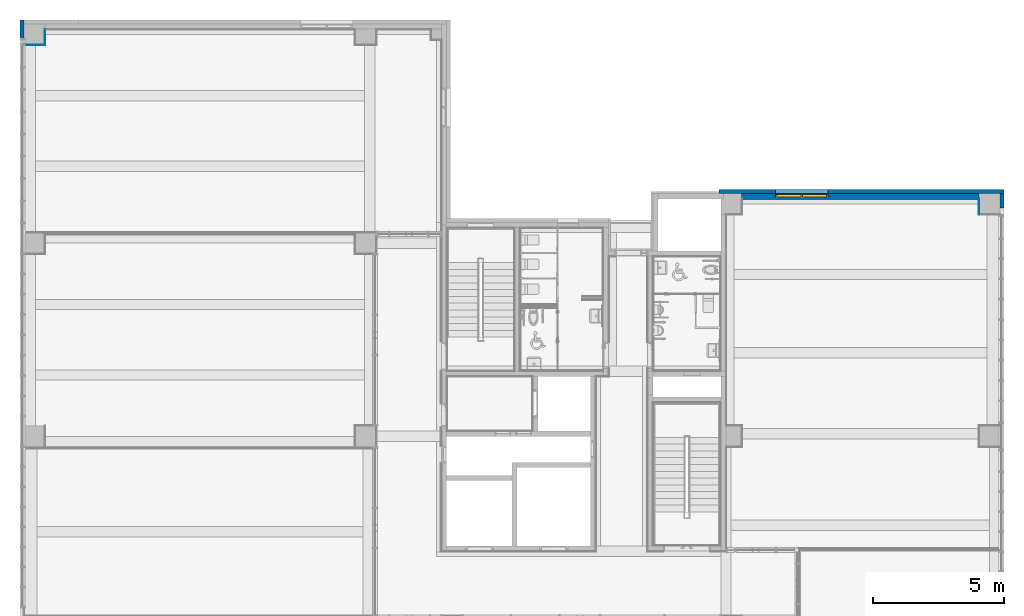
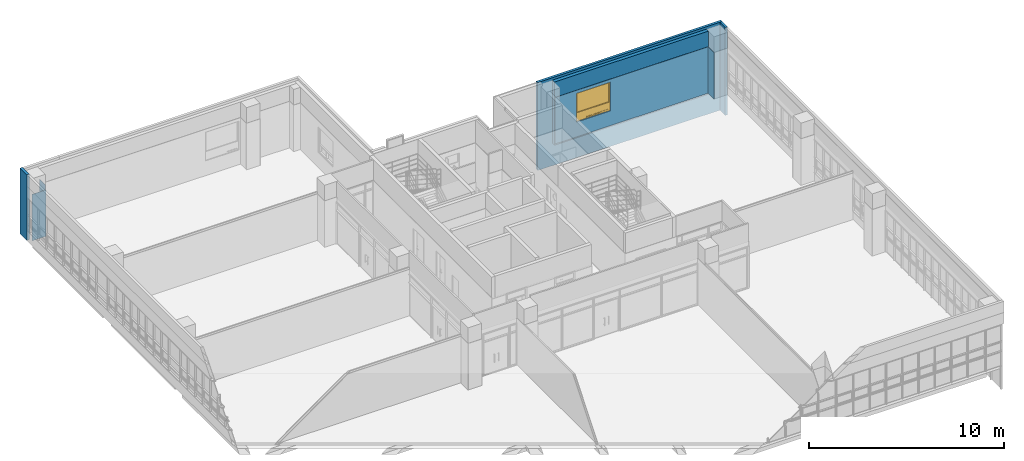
# One storey, part 65 of 81: 8 walls, 1 window, 3 openings.
"""IFC2X3 building model written with IfcOpenShell, lengths in millimetres."""

from ifc_helpers import new_model, entity, si_unit, converted_unit, derived_unit, direction, frame, frame_2d, origin, origin_2d_with_axis, place, context, subcontext, project, spatial, polyline, rectangle, extrude, clip, bounded_halfspace, faceted_brep, source, transform, mapped, material, material_list, layer, layer_set, layer_usage, type_object, type_shapes, element, fill, save


model = new_model("IFC2X3")

# Units and contexts
model_context = context("Model", 3, precision=0.01, world=origin(), true_north=direction((6.123031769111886e-17, 1.0)))
body_context = subcontext(model_context, "Body", "Model", "MODEL_VIEW")
ifc_project = project(units=[si_unit("LENGTHUNIT", "METRE", prefix="MILLI"), si_unit("AREAUNIT", "SQUARE_METRE"), si_unit("VOLUMEUNIT", "CUBIC_METRE"), converted_unit("PLANEANGLEUNIT", "DEGREE", entity("IfcRatioMeasure", 0.017453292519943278), si_unit("PLANEANGLEUNIT", "RADIAN"), dimensions=[0, 0, 0, 0, 0, 0, 0]), si_unit("MASSUNIT", "GRAM", prefix="KILO"), derived_unit("MASSDENSITYUNIT", [(si_unit("MASSUNIT", "GRAM", prefix="KILO"), 1), (si_unit("LENGTHUNIT", "METRE"), -3)]), derived_unit("MOMENTOFINERTIAUNIT", [(si_unit("LENGTHUNIT", "METRE"), 4)]), si_unit("TIMEUNIT", "SECOND"), si_unit("FREQUENCYUNIT", "HERTZ"), si_unit("THERMODYNAMICTEMPERATUREUNIT", "DEGREE_CELSIUS"), derived_unit("THERMALTRANSMITTANCEUNIT", [(si_unit("MASSUNIT", "GRAM", prefix="KILO"), 1), (si_unit("THERMODYNAMICTEMPERATUREUNIT", "KELVIN"), -1), (si_unit("TIMEUNIT", "SECOND"), -3)]), derived_unit("VOLUMETRICFLOWRATEUNIT", [(si_unit("LENGTHUNIT", "METRE"), 3), (si_unit("TIMEUNIT", "SECOND"), -1)]), derived_unit("MASSFLOWRATEUNIT", [(si_unit("MASSUNIT", "GRAM", prefix="KILO"), 1), (si_unit("TIMEUNIT", "SECOND"), -1)]), derived_unit("ROTATIONALFREQUENCYUNIT", [(si_unit("TIMEUNIT", "SECOND"), -1)]), si_unit("ELECTRICCURRENTUNIT", "AMPERE"), si_unit("ELECTRICVOLTAGEUNIT", "VOLT"), si_unit("POWERUNIT", "WATT"), si_unit("FORCEUNIT", "NEWTON", prefix="KILO"), si_unit("ILLUMINANCEUNIT", "LUX"), si_unit("LUMINOUSFLUXUNIT", "LUMEN"), si_unit("LUMINOUSINTENSITYUNIT", "CANDELA"), derived_unit("USERDEFINED", [(si_unit("MASSUNIT", "GRAM", prefix="KILO"), -1), (si_unit("LENGTHUNIT", "METRE"), -2), (si_unit("TIMEUNIT", "SECOND"), 3), (si_unit("LUMINOUSFLUXUNIT", "LUMEN"), 1)]), derived_unit("SOUNDPOWERUNIT", [(si_unit("MASSUNIT", "GRAM", prefix="KILO"), 1), (si_unit("LENGTHUNIT", "METRE"), 2), (si_unit("TIMEUNIT", "SECOND"), -3)]), derived_unit("SOUNDPRESSUREUNIT", [(si_unit("MASSUNIT", "GRAM", prefix="KILO"), 1), (si_unit("LENGTHUNIT", "METRE"), -1), (si_unit("TIMEUNIT", "SECOND"), -2)]), derived_unit("LINEARVELOCITYUNIT", [(si_unit("LENGTHUNIT", "METRE"), 1), (si_unit("TIMEUNIT", "SECOND"), -1)]), si_unit("PRESSUREUNIT", "PASCAL"), derived_unit("USERDEFINED", [(si_unit("LENGTHUNIT", "METRE"), -2), (si_unit("MASSUNIT", "GRAM", prefix="KILO"), 1), (si_unit("TIMEUNIT", "SECOND"), -2)]), derived_unit("LINEARFORCEUNIT", [(si_unit("MASSUNIT", "GRAM", prefix="KILO"), 1), (si_unit("LENGTHUNIT", "METRE"), 1), (si_unit("TIMEUNIT", "SECOND"), -2), (si_unit("LENGTHUNIT", "METRE"), -1)]), derived_unit("PLANARFORCEUNIT", [(si_unit("MASSUNIT", "GRAM", prefix="KILO"), 1), (si_unit("LENGTHUNIT", "METRE"), 1), (si_unit("TIMEUNIT", "SECOND"), -2), (si_unit("LENGTHUNIT", "METRE"), -2)])], contexts=[model_context])

# Site, building, storey
site_placement = place(None, frame((-14167.972527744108, -657.2125860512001, 0.0)))
site = spatial("IfcSite", under=ifc_project, at=site_placement, Name="Default", CompositionType="ELEMENT")
building_placement = place(site_placement, origin())
building = spatial("IfcBuilding", under=site, at=building_placement, Name="Sample Building", CompositionType="ELEMENT")
storey_placement = place(building_placement, frame((0.0, 0.0, 13400.0)))
storey = spatial("IfcBuildingStorey", under=building, at=storey_placement, Name="지상 4층", CompositionType="ELEMENT", Elevation=13400.00000000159)

# Wall, opening, window
ifc_material_1 = material(Name="KBIMS-콘크리트")
ifc_layer_1 = layer(ifc_material_1, 200.0)
ifc_layer_set_1 = layer_set([ifc_layer_1], Name="기본 벽:WA111-철근콘크리트구조 벽 200mm_W1")
ifc_layer_usage_1 = layer_usage(ifc_layer_set_1, "AXIS2", "NEGATIVE", 100.0)
wall_type_1 = type_object("IfcWallType", Name="기본 벽:WA111-철근콘크리트구조 벽 200mm_W1", PredefinedType="STANDARD", material=ifc_layer_set_1)
wall_1_placement = place(storey_placement, frame((41566.972491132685, 29157.212295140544, -2.3000097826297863e-09)))
wall_1 = element("IfcWallStandardCase", 1, at=wall_1_placement, inside=storey, type_object=wall_type_1, material=ifc_layer_usage_1, Name="기본 벽:WA111-철근콘크리트구조 벽 200mm_W1", ObjectType="기본 벽:WA111-철근콘크리트구조 벽 200mm_W1", context=body_context, shape_type="Clipping", body=[
    clip(extrude(rectangle(XDim=9101.008723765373, YDim=199.99999999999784, at=frame_2d((4550.504361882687, 0.0), x_axis=(-1.0, 0.0))), origin(), (0.0, 0.0, 1.0), 3950.0000000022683), bounded_halfspace(frame((0.0, -100.0, 3950.0), z_axis=(0.0, 0.0, -1.0), x_axis=(0.0, -1.0, 0.0)), True, frame((0.0, -100.0, 3950.0), z_axis=(0.0, 0.0, -1.0), x_axis=(0.0, -1.0, 0.0)), polyline([(0.0, 0.0), (-60960.0, 0.0), (-60960.0, -2773987.459003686), (1.5757882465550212e-08, -2773987.459003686), (0.0, -299.5119162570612), (0.0, 0.0)]))),
])
opening_1_placement = place(wall_1_placement, frame((3301.0174657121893, 100.0, 1000.0)))
opening_1 = element("IfcOpeningElement", 2, at=opening_1_placement, cuts=wall_1, Name="WD842-2단 하부 더블 프로젝트 창(스테인리스 스틸):WD842-2단 하부 더블 프로젝트 창(스테인리스 스틸)_2000x1800mm:1", ObjectType="Opening", context=body_context, shape_type="SweptSolid", body=[
    extrude(rectangle(XDim=1799.9999999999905, YDim=1999.9999999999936, at=frame_2d((899.9999999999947, 999.9999999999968), x_axis=(1.0, 0.0))), frame((0.0, 0.0, 0.0), z_axis=(0.0, -1.0, 0.0), x_axis=(0.0, 0.0, 1.0)), (0.0, 0.0, 1.0), 200.0),
])
ifc_material_2 = material(Name="KBIMS-스테인리스 스틸_도금")
ifc_material_3 = material(Name="KBIMS-유리")
ifc_material_list_1 = material_list([ifc_material_2, ifc_material_3, ifc_material_2, ifc_material_3, ifc_material_2, ifc_material_2, ifc_material_3])
ifc_material_list_2 = material_list([ifc_material_2, ifc_material_3, ifc_material_2, ifc_material_3, ifc_material_2, ifc_material_2, ifc_material_3])
window_style = type_object("IfcWindowStyle", Name="WD842-2단 하부 더블 프로젝트 창(스테인리스 스틸):WD842-2단 하부 더블 프로젝트 창(스테인리스 스틸)_2000x1800mm", ConstructionType="NOTDEFINED", OperationType="NOTDEFINED", ParameterTakesPrecedence=False, Sizeable=False, material=ifc_material_list_2)
shared_shape = source(origin(), body_context, "Body", "Brep", [
    faceted_brep([(1940.0, 37.49999999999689, 470.0), (1030.0, 37.49999999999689, 470.0), (1030.0, 162.4999999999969, 470.0), (1940.0, 162.4999999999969, 470.0), (2000.0, 162.4999999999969, 530.0), (1940.0, 162.4999999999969, 530.0), (60.0, 162.4999999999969, 530.0), (0.0, 162.4999999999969, 530.0), (0.0, 37.49999999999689, 530.0), (60.0, 37.49999999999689, 530.0), (1940.0, 37.49999999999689, 530.0), (2000.0, 37.49999999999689, 530.0), (60.0, 37.49999999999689, 470.0), (60.0, 37.49999999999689, 60.0), (60.0, 162.4999999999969, 60.0), (60.0, 162.4999999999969, 470.0), (0.0, 162.4999999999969, 0.0), (0.0, 37.49999999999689, 0.0), (970.0, 37.49999999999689, 60.0), (970.0, 162.4999999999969, 60.0), (2000.0, 162.4999999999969, 0.0), (2000.0, 37.49999999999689, 0.0), (1940.0, 162.4999999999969, 60.0), (1940.0, 37.49999999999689, 60.0), (970.0, 37.49999999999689, 470.0), (1030.0, 37.49999999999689, 60.0), (970.0, 162.4999999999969, 470.0), (1030.0, 162.4999999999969, 60.0)], [[[0, 1, 2, 3]], [[4, 5, 6, 7, 8, 9, 10, 11]], [[12, 13, 14, 15]], [[7, 16, 17, 8]], [[13, 18, 19, 14]], [[16, 20, 21, 17]], [[3, 22, 23, 0]], [[8, 17, 21, 11, 10, 9], [12, 24, 18, 13], [0, 23, 25, 1]], [[11, 21, 20, 4]], [[14, 19, 26, 15], [22, 3, 2, 27], [4, 20, 16, 7, 6, 5]], [[19, 18, 24, 26]], [[2, 1, 25, 27]], [[22, 27, 25, 23]], [[15, 26, 24, 12]]], outer=[[True], [True], [True], [True], [True], [True], [True], [True, False, False], [True], [False, False, True], [True], [True], [True], [True]]),
    faceted_brep([(1070.0, 151.0, 430.0), (1070.0, 151.0, 100.0), (1070.0, 139.0, 100.0), (1070.0, 139.0, 430.0), (1900.0, 139.0, 100.0), (1900.0, 139.0, 430.0), (1900.0, 151.0, 100.0), (1900.0, 151.0, 430.0)], [[[0, 1, 2, 3]], [[3, 2, 4, 5]], [[5, 4, 6, 7]], [[0, 3, 5, 7]], [[1, 6, 4, 2]], [[7, 6, 1, 0]]]),
    faceted_brep([(1890.0, 151.0, 420.0), (1080.0, 151.0, 420.0), (1080.0, 160.0, 420.0), (1890.0, 160.0, 420.0), (1900.0, 139.0, 430.0), (1070.0, 139.0, 430.0), (1070.0, 151.0, 430.0), (1900.0, 151.0, 430.0), (1890.0, 130.0, 420.0), (1080.0, 130.0, 420.0), (1080.0, 139.0, 420.0), (1890.0, 139.0, 420.0), (1940.0, 160.0, 470.0), (1030.0, 160.0, 470.0), (1030.0, 130.0, 470.0), (1940.0, 130.0, 470.0), (1080.0, 151.0, 110.0), (1080.0, 160.0, 110.0), (1070.0, 139.0, 100.0), (1070.0, 151.0, 100.0), (1080.0, 130.0, 110.0), (1080.0, 139.0, 110.0), (1030.0, 160.0, 60.0), (1030.0, 130.0, 60.0), (1890.0, 151.0, 110.0), (1890.0, 160.0, 110.0), (1900.0, 139.0, 100.0), (1900.0, 151.0, 100.0), (1890.0, 130.0, 110.0), (1890.0, 139.0, 110.0), (1940.0, 160.0, 60.0), (1940.0, 130.0, 60.0)], [[[0, 1, 2, 3]], [[4, 5, 6, 7]], [[8, 9, 10, 11]], [[12, 13, 14, 15]], [[1, 16, 17, 2]], [[5, 18, 19, 6]], [[9, 20, 21, 10]], [[13, 22, 23, 14]], [[16, 24, 25, 17]], [[18, 26, 27, 19]], [[20, 28, 29, 21]], [[22, 30, 31, 23]], [[24, 0, 3, 25]], [[7, 6, 19, 27], [1, 0, 24, 16]], [[26, 4, 7, 27]], [[11, 10, 21, 29], [5, 4, 26, 18]], [[28, 8, 11, 29]], [[15, 14, 23, 31], [9, 8, 28, 20]], [[30, 12, 15, 31]], [[3, 2, 17, 25], [13, 12, 30, 22]]], outer=[[True], [True], [True], [True], [True], [True], [True], [True], [True], [True], [True], [True], [True], [True, False], [True], [False, True], [True], [True, False], [True], [False, True]]),
    faceted_brep([(100.0, 151.0, 430.0), (100.0, 139.0, 430.0), (930.0, 139.0, 430.0), (930.0, 151.0, 430.0), (100.0, 151.0, 100.0), (930.0, 151.0, 100.0), (930.0, 139.0, 100.0), (100.0, 139.0, 100.0)], [[[0, 1, 2, 3]], [[4, 5, 6, 7]], [[3, 5, 4, 0]], [[2, 6, 5, 3]], [[1, 7, 6, 2]], [[0, 4, 7, 1]]]),
    faceted_brep([(930.0, 139.0, 100.0), (930.0, 139.0, 430.0), (930.0, 151.0, 430.0), (930.0, 151.0, 100.0), (100.0, 151.0, 430.0), (100.0, 151.0, 100.0), (110.0, 151.0, 420.0), (920.0, 151.0, 420.0), (920.0, 151.0, 110.0), (110.0, 151.0, 110.0), (920.0, 160.0, 420.0), (920.0, 160.0, 110.0), (110.0, 160.0, 110.0), (110.0, 160.0, 420.0), (100.0, 139.0, 430.0), (100.0, 139.0, 100.0), (110.0, 130.0, 420.0), (110.0, 130.0, 110.0), (110.0, 139.0, 110.0), (110.0, 139.0, 420.0), (920.0, 130.0, 420.0), (920.0, 139.0, 420.0), (970.0, 160.0, 470.0), (60.0, 160.0, 470.0), (60.0, 130.0, 470.0), (970.0, 130.0, 470.0), (60.0, 160.0, 60.0), (60.0, 130.0, 60.0), (920.0, 130.0, 110.0), (920.0, 139.0, 110.0), (970.0, 160.0, 60.0), (970.0, 130.0, 60.0)], [[[0, 1, 2, 3]], [[2, 4, 5, 3], [6, 7, 8, 9]], [[8, 7, 10, 11]], [[6, 9, 12, 13]], [[14, 15, 5, 4]], [[16, 17, 18, 19]], [[7, 6, 13, 10]], [[1, 14, 4, 2]], [[20, 16, 19, 21]], [[22, 23, 24, 25]], [[23, 26, 27, 24]], [[9, 8, 11, 12]], [[15, 0, 3, 5]], [[17, 28, 29, 18]], [[26, 30, 31, 27]], [[21, 19, 18, 29], [14, 1, 0, 15]], [[28, 20, 21, 29]], [[25, 24, 27, 31], [16, 20, 28, 17]], [[30, 22, 25, 31]], [[10, 13, 12, 11], [23, 22, 30, 26]]], outer=[[True], [True, False], [True], [True], [True], [True], [True], [True], [True], [True], [True], [True], [True], [True], [True], [False, True], [True], [True, False], [True], [False, True]]),
    faceted_brep([(1940.0, 37.50000000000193, 1740.0), (60.0, 37.50000000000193, 1740.0), (60.0, 162.50000000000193, 1740.0), (1940.0, 162.50000000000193, 1740.0), (2000.0, 162.50000000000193, 1800.0), (0.0, 162.50000000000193, 1800.0), (0.0, 37.50000000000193, 1800.0), (2000.0, 37.50000000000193, 1800.0), (60.0, 37.50000000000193, 530.0), (60.0, 162.50000000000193, 530.0), (0.0, 162.50000000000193, 530.0), (0.0, 37.50000000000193, 530.0), (1940.0, 162.50000000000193, 530.0), (1940.0, 37.50000000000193, 530.0), (2000.0, 37.50000000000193, 530.0), (2000.0, 162.50000000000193, 530.0)], [[[0, 1, 2, 3]], [[4, 5, 6, 7]], [[1, 8, 9, 2]], [[5, 10, 11, 6]], [[3, 12, 13, 0]], [[0, 13, 14, 7, 6, 11, 8, 1]], [[7, 14, 15, 4]], [[2, 9, 10, 5, 4, 15, 12, 3]], [[12, 15, 14, 13]], [[8, 11, 10, 9]]]),
    faceted_brep([(60.0, 106.0, 1740.0), (60.0, 94.0, 1740.0), (1940.0, 94.0, 1740.0), (1940.0, 106.0, 1740.0), (1940.0, 106.0, 530.0), (60.0, 106.0, 530.0), (1940.0, 94.0, 530.0), (60.0, 94.0, 530.0)], [[[0, 1, 2, 3]], [[3, 4, 5, 0]], [[2, 6, 4, 3]], [[1, 7, 6, 2]], [[0, 5, 7, 1]], [[4, 6, 7, 5]]]),
])
type_shapes(window_style, [shared_shape])
window_placement = place(opening_1_placement, frame((0.0, 0.0, 2.2992026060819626e-09), z_axis=(0.0, 0.0, 1.0), x_axis=(-1.0, 0.0, 0.0)))
window = element("IfcWindow", 3, at=window_placement, inside=storey, type_object=window_style, material=ifc_material_list_1, Name="WD842-2단 하부 더블 프로젝트 창(스테인리스 스틸):WD842-2단 하부 더블 프로젝트 창(스테인리스 스틸)_2000x1800mm", ObjectType="WD842-2단 하부 더블 프로젝트 창(스테인리스 스틸):WD842-2단 하부 더블 프로젝트 창(스테인리스 스틸)_2000x1800mm", OverallHeight=1799.9999999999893, OverallWidth=1999.999999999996, context=body_context, shape_type="MappedRepresentation", body=[
    mapped(shared_shape, transform((0.0, 0.0, 0.0), scale=1.0)),
])
fill(opening_1, window)

# Wall, opening
ifc_material_4 = material(Name="WA785-금속외장패널")
ifc_layer_2 = layer(ifc_material_4, 25.0)
ifc_material_5 = material(Name="WA793-금속 긴결철물 벽")
ifc_layer_3 = layer(ifc_material_5, 75.0)
ifc_material_6 = material(Name="WA821-압출스티로폼 벽 (본드붙임, 비중0.03) 50mm")
ifc_layer_4 = layer(ifc_material_6, 50.0)
ifc_layer_set_2 = layer_set([ifc_layer_2, ifc_layer_3, ifc_layer_4], Name="기본 벽:A2-26-01A-압출스티로폼, 금속 긴결철물, 금속외장패널 (150mm)")
ifc_layer_usage_2 = layer_usage(ifc_layer_set_2, "AXIS2", "POSITIVE", -75.0)
wall_type_2 = type_object("IfcWallType", Name="기본 벽:A2-26-01A-압출스티로폼, 금속 긴결철물, 금속외장패널 (150mm)", PredefinedType="STANDARD", material=ifc_layer_set_2)
wall_2_placement = place(storey_placement, frame((51617.96382893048, 29332.212395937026, -1400.0), z_axis=(0.0, 0.0, 1.0), x_axis=(-1.0, 0.0, 0.0)))
wall_2 = element("IfcWallStandardCase", 4, at=wall_2_placement, inside=storey, type_object=wall_type_2, material=ifc_layer_usage_2, Name="기본 벽:A2-26-01A-압출스티로폼, 금속 긴결철물, 금속외장패널 (150mm)", ObjectType="기본 벽:A2-26-01A-압출스티로폼, 금속 긴결철물, 금속외장패널 (150mm)", context=body_context, shape_type="SweptSolid", body=[
    extrude(rectangle(XDim=10925.000030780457, YDim=150.00000000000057, at=frame_2d((5462.500015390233, 9.947598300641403e-14), x_axis=(-1.0, 0.0))), origin(), (0.0, 0.0, 1.0), 5500.0000000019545),
])
opening_2_placement = place(wall_2_placement, origin())
element("IfcOpeningElement", 5, at=opening_2_placement, cuts=wall_2, Name="기본 벽:A2-26-01A-압출스티로폼, 금속 긴결철물, 금속외장패널 (150mm)", ObjectType="Opening", context=body_context, shape_type="SweptSolid", body=[
    extrude(rectangle(XDim=1799.9999999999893, YDim=1999.999999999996, at=frame_2d((0.0, 0.0), x_axis=(0.0, 1.0))), frame((7749.973872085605, -1448.9998992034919, 3300.0), z_axis=(0.0, 1.0, 0.0), x_axis=(-1.0, 0.0, 0.0)), (0.0, 0.0, 1.0), 3048.0),
])

# Walls
ifc_layer_usage_3 = layer_usage(ifc_layer_set_2, "AXIS2", "NEGATIVE", 75.0)
wall_3_placement = place(storey_placement, frame((51542.96382893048, 29257.212395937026, -1400.0), z_axis=(0.0, 0.0, 1.0), x_axis=(0.0, -1.0, 0.0)))
element("IfcWallStandardCase", 6, at=wall_3_placement, inside=storey, type_object=wall_type_2, material=ifc_layer_usage_3, Name="기본 벽:A2-26-01A-압출스티로폼, 금속 긴결철물, 금속외장패널 (150mm)", ObjectType="기본 벽:A2-26-01A-압출스티로폼, 금속 긴결철물, 금속외장패널 (150mm)", context=body_context, shape_type="SweptSolid", body=[
    extrude(rectangle(XDim=550.0000128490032, YDim=150.00000000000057, at=frame_2d((275.0000064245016, -2.9700686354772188e-12), x_axis=(-1.0, 0.0))), origin(), (0.0, 0.0, 1.0), 5500.0000000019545),
])
ifc_layer_usage_4 = layer_usage(ifc_layer_set_2, "AXIS2", "POSITIVE", -75.0)
wall_4_placement = place(storey_placement, frame((13992.955105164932, 35907.21229514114, -1.4683678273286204e-09), z_axis=(0.0, 0.0, 1.0), x_axis=(0.0, -1.0, 0.0)))
element("IfcWallStandardCase", 7, at=wall_4_placement, inside=storey, type_object=wall_type_2, material=ifc_layer_usage_4, Name="기본 벽:A2-26-01A-압출스티로폼, 금속 긴결철물, 금속외장패널 (150mm)", ObjectType="기본 벽:A2-26-01A-압출스티로폼, 금속 긴결철물, 금속외장패널 (150mm)", context=body_context, shape_type="SweptSolid", body=[
    extrude(rectangle(XDim=700.0000000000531, YDim=150.00000000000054, at=frame_2d((350.00000000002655, 0.0), x_axis=(-1.0, 0.0))), origin(), (0.0, 0.0, 1.0), 4099.999999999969),
])
ifc_material_7 = material(Name="WA611-수성페인트 (내부) 벽 (3회)")
ifc_layer_5 = layer(ifc_material_7, 1.0)
ifc_material_8 = material(Name="WA551-시멘트모르타르 (내부) 벽 18mm")
ifc_layer_6 = layer(ifc_material_8, 16.0)
ifc_material_9 = material(Name="WA555-콘크리트면정리 벽 (내부)")
ifc_layer_7 = layer(ifc_material_9, 1.0)
ifc_layer_set_3 = layer_set([ifc_layer_5, ifc_layer_6, ifc_layer_7], Name="기본 벽:A1-32-06A-콘크리트면정리, 시멘트모르타르(미장용), 수성페인트(내부) (18mm)")
ifc_layer_usage_5 = layer_usage(ifc_layer_set_3, "AXIS2", "NEGATIVE", 9.000000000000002)
wall_type_3 = type_object("IfcWallType", Name="기본 벽:A1-32-06A-콘크리트면정리, 시멘트모르타르(미장용), 수성페인트(내부) (18mm)", PredefinedType="STANDARD", material=ifc_layer_set_3)
wall_5_placement = place(storey_placement, frame((14885.972454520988, 34948.211871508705, 80.0), z_axis=(0.0, 0.0, 1.0), x_axis=(-1.0, 0.0, 0.0)))
element("IfcWallStandardCase", 8, at=wall_5_placement, inside=storey, type_object=wall_type_3, material=ifc_layer_usage_5, Name="기본 벽:A1-32-06A-콘크리트면정리, 시멘트모르타르(미장용), 수성페인트(내부) (18mm)", ObjectType="기본 벽:A1-32-06A-콘크리트면정리, 시멘트모르타르(미장용), 수성페인트(내부) (18mm)", context=body_context, shape_type="SweptSolid", body=[
    extrude(rectangle(XDim=817.9998836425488, YDim=18.00000000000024, at=frame_2d((408.9999418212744, -2.1662671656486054e-12), x_axis=(-1.0, 0.0))), origin(), (0.0, 0.0, 1.0), 2899.999999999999),
])

# Wall, opening
ifc_layer_usage_6 = layer_usage(ifc_layer_set_3, "AXIS2", "POSITIVE", -9.000000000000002)
wall_6_placement = place(storey_placement, frame((41584.972491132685, 29048.2118860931, 80.0)))
wall_6 = element("IfcWallStandardCase", 9, at=wall_6_placement, inside=storey, type_object=wall_type_3, material=ifc_layer_usage_6, Name="기본 벽:A1-32-06A-콘크리트면정리, 시멘트모르타르(미장용), 수성페인트(내부) (18mm)", ObjectType="기본 벽:A1-32-06A-콘크리트면정리, 시멘트모르타르(미장용), 수성페인트(내부) (18mm)", context=body_context, shape_type="SweptSolid", body=[
    extrude(rectangle(XDim=9083.008723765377, YDim=18.00000000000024, at=frame_2d((4541.5043618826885, -2.1662671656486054e-12), x_axis=(-1.0, 0.0))), origin(), (0.0, 0.0, 1.0), 2899.999999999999),
])
opening_3_placement = place(wall_6_placement, origin())
element("IfcOpeningElement", 10, at=opening_3_placement, cuts=wall_6, Name="기본 벽:A1-32-06A-콘크리트면정리, 시멘트모르타르(미장용), 수성페인트(내부) (18mm)", ObjectType="Opening", context=body_context, shape_type="SweptSolid", body=[
    extrude(rectangle(XDim=1799.9999999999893, YDim=1999.999999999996, at=origin_2d_with_axis()), frame((2283.0174657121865, -1314.9995909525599, 1820.0), z_axis=(0.0, 1.0, 0.0), x_axis=(0.0, 0.0, 1.0)), (0.0, 0.0, 1.0), 3048.0),
])

# Walls
ifc_layer_usage_7 = layer_usage(ifc_layer_set_3, "AXIS2", "POSITIVE", -9.000000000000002)
wall_7_placement = place(storey_placement, frame((50658.98121489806, 29039.211886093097, 80.0), z_axis=(0.0, 0.0, 1.0), x_axis=(0.0, -1.0, 0.0)))
element("IfcWallStandardCase", 11, at=wall_7_placement, inside=storey, type_object=wall_type_3, material=ifc_layer_usage_7, Name="기본 벽:A1-32-06A-콘크리트면정리, 시멘트모르타르(미장용), 수성페인트(내부) (18mm)", ObjectType="기본 벽:A1-32-06A-콘크리트면정리, 시멘트모르타르(미장용), 수성페인트(내부) (18mm)", context=body_context, shape_type="SweptSolid", body=[
    extrude(rectangle(XDim=599.9998992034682, YDim=17.999999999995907, at=frame_2d((299.9999496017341, 0.0), x_axis=(-1.0, 0.0))), origin(), (0.0, 0.0, 1.0), 2899.999999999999),
])
ifc_layer_usage_8 = layer_usage(ifc_layer_set_3, "AXIS2", "NEGATIVE", 9.000000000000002)
wall_8_placement = place(storey_placement, frame((14876.972454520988, 35557.21229514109, 80.0), z_axis=(0.0, 0.0, 1.0), x_axis=(0.0, -1.0, 0.0)))
element("IfcWallStandardCase", 12, at=wall_8_placement, inside=storey, type_object=wall_type_3, material=ifc_layer_usage_8, Name="기본 벽:A1-32-06A-콘크리트면정리, 시멘트모르타르(미장용), 수성페인트(내부) (18mm)", ObjectType="기본 벽:A1-32-06A-콘크리트면정리, 시멘트모르타르(미장용), 수성페인트(내부) (18mm)", context=body_context, shape_type="SweptSolid", body=[
    extrude(rectangle(XDim=600.0004236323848, YDim=18.000000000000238, at=frame_2d((300.0002118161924, 0.0), x_axis=(-1.0, 0.0))), origin(), (0.0, 0.0, 1.0), 3200.0),
])

save(model, "model.ifc")
